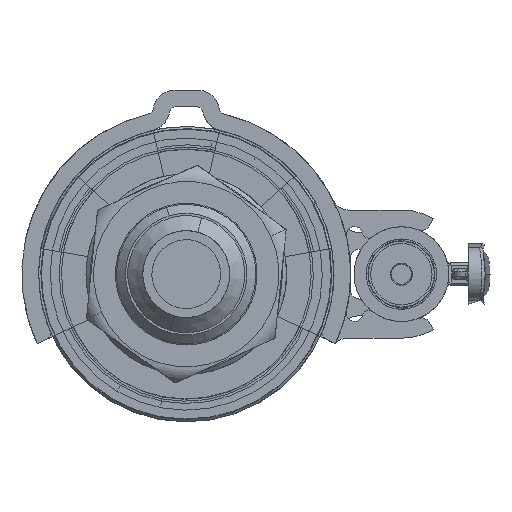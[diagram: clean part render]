
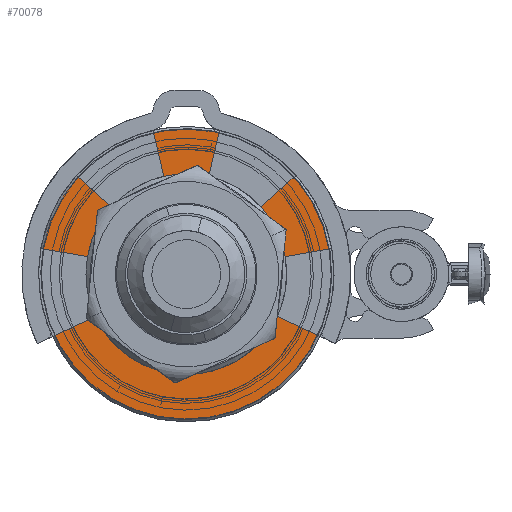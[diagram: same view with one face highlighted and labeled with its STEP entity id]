
A CAD part, front view. The second image highlights one B-rep face of the part: STEP entity #70078.
In plain terms, the highlighted planar face has unit normal (0, -1, 0).
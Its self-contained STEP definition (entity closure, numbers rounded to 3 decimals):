
#24365 = CARTESIAN_POINT ( 'NONE',  ( 0., 16.5, 13.05 ) ) ;
#24371 = CARTESIAN_POINT ( 'NONE',  ( 0., 16.5, -13.05 ) ) ;
#24372 = DIRECTION ( 'NONE',  ( 0., 0., -1. ) ) ;
#24373 = DIRECTION ( 'NONE',  ( 0., -1., 0. ) ) ;
#24374 = CARTESIAN_POINT ( 'NONE',  ( 0., 16.5, 0. ) ) ;
#24375 = AXIS2_PLACEMENT_3D ( 'NONE', #24374, #24373, #24372 ) ;
#24376 = CIRCLE ( 'NONE', #24375, 13.05 ) ;
#24617 = CARTESIAN_POINT ( 'NONE',  ( 0., 16.5, -7.6 ) ) ;
#24618 = DIRECTION ( 'NONE',  ( 0., 0., -1. ) ) ;
#24619 = DIRECTION ( 'NONE',  ( 0., 1., 0. ) ) ;
#24620 = CARTESIAN_POINT ( 'NONE',  ( 0., 16.5, 0. ) ) ;
#24621 = AXIS2_PLACEMENT_3D ( 'NONE', #24620, #24619, #24618 ) ;
#24628 = CIRCLE ( 'NONE', #24621, 7.6 ) ;
#24631 = CARTESIAN_POINT ( 'NONE',  ( 0., 16.5, 7.6 ) ) ;
#25350 = DIRECTION ( 'NONE',  ( 0., 0., -1. ) ) ;
#25351 = DIRECTION ( 'NONE',  ( 0., -1., 0. ) ) ;
#25352 = CARTESIAN_POINT ( 'NONE',  ( 0., 16.5, 0. ) ) ;
#25353 = AXIS2_PLACEMENT_3D ( 'NONE', #25352, #25351, #25350 ) ;
#25354 = CIRCLE ( 'NONE', #25353, 13.05 ) ;
#25355 = DIRECTION ( 'NONE',  ( 0., 0., -1. ) ) ;
#25356 = DIRECTION ( 'NONE',  ( 0., -1., 0. ) ) ;
#25357 = CARTESIAN_POINT ( 'NONE',  ( 7.4, 16.5, 0. ) ) ;
#25358 = AXIS2_PLACEMENT_3D ( 'NONE', #25357, #25356, #25355 ) ;
#25359 = PLANE ( 'NONE',  #25358 ) ;
#25360 = FACE_BOUND ( 'NONE', #70093, .T. ) ;
#25361 = FACE_OUTER_BOUND ( 'NONE', #70081, .T. ) ;
#25423 = CIRCLE ( 'NONE', #25425, 7.6 ) ;
#25424 = DIRECTION ( 'NONE',  ( 0., 1., 0. ) ) ;
#25425 = AXIS2_PLACEMENT_3D ( 'NONE', #25433, #25424, #25447 ) ;
#25433 = CARTESIAN_POINT ( 'NONE',  ( 0., 16.5, 0. ) ) ;
#25447 = DIRECTION ( 'NONE',  ( 0., 0., -1. ) ) ;
#69503 = EDGE_CURVE ( 'NONE', #69504, #69506, #24376, .T. ) ;
#69504 = VERTEX_POINT ( 'NONE', #24371 ) ;
#69506 = VERTEX_POINT ( 'NONE', #24365 ) ;
#69647 = VERTEX_POINT ( 'NONE', #24631 ) ;
#69652 = EDGE_CURVE ( 'NONE', #69653, #69647, #24628, .T. ) ;
#69653 = VERTEX_POINT ( 'NONE', #24617 ) ;
#70078 = ADVANCED_FACE ( 'NONE', ( #25361, #25360 ), #25359, .T. ) ;
#70081 = EDGE_LOOP ( 'NONE', ( #70084, #70092 ) ) ;
#70084 = ORIENTED_EDGE ( 'NONE', *, *, #70088, .T. ) ;
#70088 = EDGE_CURVE ( 'NONE', #69506, #69504, #25354, .T. ) ;
#70092 = ORIENTED_EDGE ( 'NONE', *, *, #69503, .T. ) ;
#70093 = EDGE_LOOP ( 'NONE', ( #70128, #70130 ) ) ;
#70128 = ORIENTED_EDGE ( 'NONE', *, *, #69652, .T. ) ;
#70130 = ORIENTED_EDGE ( 'NONE', *, *, #70132, .T. ) ;
#70132 = EDGE_CURVE ( 'NONE', #69647, #69653, #25423, .T. ) ;
